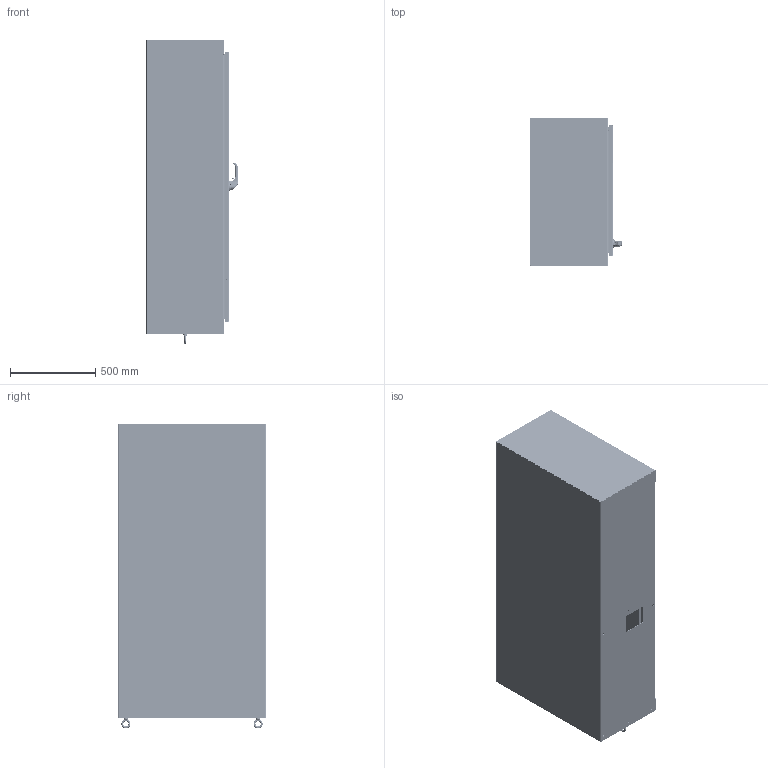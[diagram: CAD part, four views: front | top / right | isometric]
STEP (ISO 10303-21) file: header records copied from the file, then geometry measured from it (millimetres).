
FILE_DESCRIPTION((''),'2;1');
FILE_NAME('MODEL-484_ASM','2026-05-29T12:40:34',('joshi'),('SAGINAW CONTROL & ENGINEERING'),'CREO PARAMETRIC BY PTC INC, 2021284','CREO PARAMETRIC BY PTC INC, 2021284','');
FILE_SCHEMA(('AUTOMOTIVE_DESIGN { 1 0 10303 214 1 1 1 1 }'));
Length unit declared in the file: inch
Products named in the file (69): MODEL-484-L-SD; MODEL-484-TP; MODEL-484-R-SD; MODEL-484-BTM; MODEL-484-DR; 100837; 111267; 100882; 100953_SCREW_MTG; 100953_PADLOCK_CATCH; 100953_SCREW_LARGE; 100953_INSERT_SHAFT; 100953_INSERT_PCH; 100953_GASKET; 100953_O-RING; 100953_BASE; 100953_SPRING; 100953_HANDLE; 100953_CAM_SHAFT; 100953_HANDLE_ASM; 100953_CAM_ADAPTER; 100953_EARTH_NUT; 100953_FLANGE_NUT; 100953_CAM_NUT; 100953_CP_INSERT; 100953_SPRING_CAM; 100953_TORSION_SPRING; 100953_SCREW_INSERT; 100953_ASM; 102237; 100030; 102237_ASM; MODEL-484-ROD-UPR; 128146; 128145; 128144; 102482; MODEL-484-ROD-UPR_ASM; 128143; 112504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
Assembly tree (134 placements, depth 5):
  MODEL-484_ASM
    MODEL-484-L-SD
    MODEL-484-TP
    MODEL-484-R-SD
    MODEL-484-BTM
    MODEL-484-DOOR-ASSY_ASM
      MODEL-484-DR
      100837  x7
      111267
      100882  x12
      100953_ASM
        100953_SCREW_MTG
        100953_PADLOCK_CATCH
        100953_SCREW_LARGE  x2
        100953_INSERT_SHAFT
        100953_INSERT_PCH
        100953_GASKET
        100953_O-RING
        100953_BASE
        100953_SPRING
        100953_HANDLE_ASM
          100953_HANDLE
          100953_CAM_SHAFT
        100953_CAM_ADAPTER
        100953_EARTH_NUT
        100953_FLANGE_NUT
        100953_CAM_NUT
        100953_CP_INSERT
        100953_SPRING_CAM
        100953_TORSION_SPRING
        100953_SCREW_INSERT
      102237_ASM
        102237
        100030  x2
      MODEL-484-ROD-UPR_ASM
        MODEL-484-ROD-UPR
        128146
        128145
        128144
        102482  x2
      128143  x2
      112504  x2
      MODEL-484-ROD-LWR_ASM
        MODEL-484-ROD-LWR
        128146
        128145
        128144
        102482  x2
      MODEL-484-PR-GSKT
      128258_ASM  x4
        128258
      126395  x4
      102483  x4
      101383_ASM  x4
        101383
        101383-STUD
      101221  x4
      125597
    100837  x6
    101653  x6
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Bounding box: 535.27 x 869.95 x 1788.36 mm (x, y, z)
Volume: 20048385.2 mm3; surface area: 14549100.5 mm2
Topology: 138 solids, 138 shells, 12776 faces, 32744 edges, 20228 vertices
Faces by surface type: plane 4348, bspline 3274, cylinder 3178, torus 924, cone 708, sphere 314, extrusion 30
Entity records: 361213 total; most frequent: CARTESIAN_POINT 150796, ORIENTED_EDGE 32734, DIRECTION 29444, PRESENTATION_STYLE_ASSIGNMENT 16405, STYLED_ITEM 16398, EDGE_CURVE 16367, CURVE_STYLE 16319, AXIS2_PLACEMENT_3D 10969
